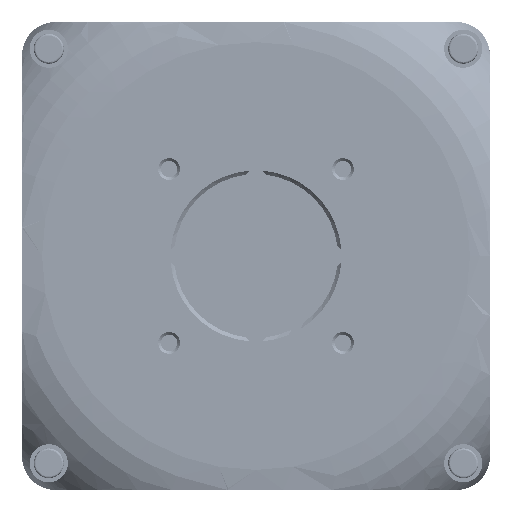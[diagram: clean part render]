
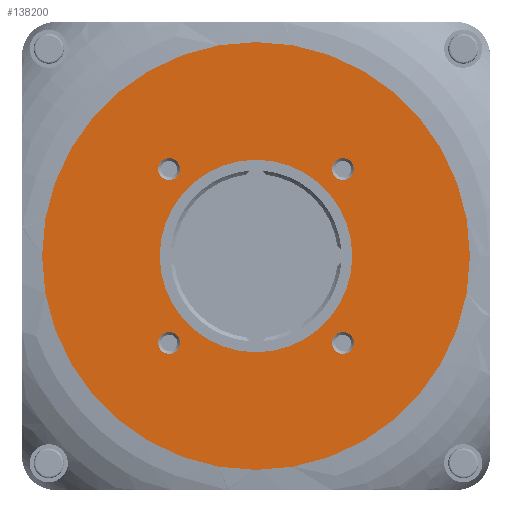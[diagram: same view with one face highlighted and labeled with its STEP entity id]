
A CAD part, left-side view. The second image highlights one B-rep face of the part: STEP entity #138200.
In plain terms, the highlighted planar face has unit normal (-1, 0, 0).
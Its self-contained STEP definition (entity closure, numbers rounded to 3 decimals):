
#7682=CIRCLE('',#192587,1.63);
#7683=CIRCLE('',#192589,1.63);
#7684=CIRCLE('',#192591,1.63);
#7685=CIRCLE('',#192593,1.63);
#7686=CIRCLE('',#192595,32.);
#7696=CIRCLE('',#192615,14.4);
#41156=ORIENTED_EDGE('',*,*,#64469,.F.);
#41157=ORIENTED_EDGE('',*,*,#64479,.T.);
#41158=ORIENTED_EDGE('',*,*,#64468,.T.);
#41159=ORIENTED_EDGE('',*,*,#64467,.T.);
#41160=ORIENTED_EDGE('',*,*,#64466,.T.);
#41161=ORIENTED_EDGE('',*,*,#64465,.T.);
#64465=EDGE_CURVE('',#78711,#78711,#7682,.F.);
#64466=EDGE_CURVE('',#78712,#78712,#7683,.F.);
#64467=EDGE_CURVE('',#78713,#78713,#7684,.F.);
#64468=EDGE_CURVE('',#78714,#78714,#7685,.F.);
#64469=EDGE_CURVE('',#78715,#78715,#7686,.T.);
#64479=EDGE_CURVE('',#78725,#78725,#7696,.F.);
#78711=VERTEX_POINT('',#273044);
#78712=VERTEX_POINT('',#273047);
#78713=VERTEX_POINT('',#273050);
#78714=VERTEX_POINT('',#273053);
#78715=VERTEX_POINT('',#273056);
#78725=VERTEX_POINT('',#273086);
#116041=EDGE_LOOP('',(#41156));
#116042=EDGE_LOOP('',(#41157));
#116043=EDGE_LOOP('',(#41158));
#116044=EDGE_LOOP('',(#41159));
#116045=EDGE_LOOP('',(#41160));
#116046=EDGE_LOOP('',(#41161));
#125142=FACE_BOUND('',#116041,.T.);
#125143=FACE_BOUND('',#116042,.T.);
#125144=FACE_BOUND('',#116043,.T.);
#125145=FACE_BOUND('',#116044,.T.);
#125146=FACE_BOUND('',#116045,.T.);
#125147=FACE_BOUND('',#116046,.T.);
#131286=PLANE('',#192614);
#138200=ADVANCED_FACE('',(#125142,#125143,#125144,#125145,#125146,#125147),
#131286,.T.);
#192587=AXIS2_PLACEMENT_3D('',#273043,#226627,#226628);
#192589=AXIS2_PLACEMENT_3D('',#273046,#226631,#226632);
#192591=AXIS2_PLACEMENT_3D('',#273049,#226635,#226636);
#192593=AXIS2_PLACEMENT_3D('',#273052,#226639,#226640);
#192595=AXIS2_PLACEMENT_3D('',#273055,#226643,#226644);
#192614=AXIS2_PLACEMENT_3D('',#273084,#226681,#226682);
#192615=AXIS2_PLACEMENT_3D('',#273085,#226683,#226684);
#226627=DIRECTION('',(-1.,0.,0.));
#226628=DIRECTION('',(0.,1.,0.));
#226631=DIRECTION('',(-1.,0.,0.));
#226632=DIRECTION('',(0.,1.,0.));
#226635=DIRECTION('',(-1.,0.,0.));
#226636=DIRECTION('',(0.,1.,0.));
#226639=DIRECTION('',(-1.,0.,0.));
#226640=DIRECTION('',(0.,1.,0.));
#226643=DIRECTION('',(1.,0.,0.));
#226644=DIRECTION('',(0.,-1.,0.));
#226681=DIRECTION('',(-1.,0.,0.));
#226682=DIRECTION('',(0.,1.,0.));
#226683=DIRECTION('',(-1.,0.,0.));
#226684=DIRECTION('',(0.,1.,0.));
#273043=CARTESIAN_POINT('',(-14.37,13.,-13.));
#273044=CARTESIAN_POINT('',(-14.37,14.63,-13.));
#273046=CARTESIAN_POINT('',(-14.37,-13.,-13.));
#273047=CARTESIAN_POINT('',(-14.37,-11.371,-13.));
#273049=CARTESIAN_POINT('',(-14.37,-13.,13.));
#273050=CARTESIAN_POINT('',(-14.37,-11.371,13.));
#273052=CARTESIAN_POINT('',(-14.37,13.,13.));
#273053=CARTESIAN_POINT('',(-14.37,14.63,13.));
#273055=CARTESIAN_POINT('',(-14.37,0.,0.));
#273056=CARTESIAN_POINT('',(-14.37,-32.,0.));
#273084=CARTESIAN_POINT('',(-14.37,0.,7.175));
#273085=CARTESIAN_POINT('',(-14.37,0.,0.));
#273086=CARTESIAN_POINT('',(-14.37,14.4,0.));
